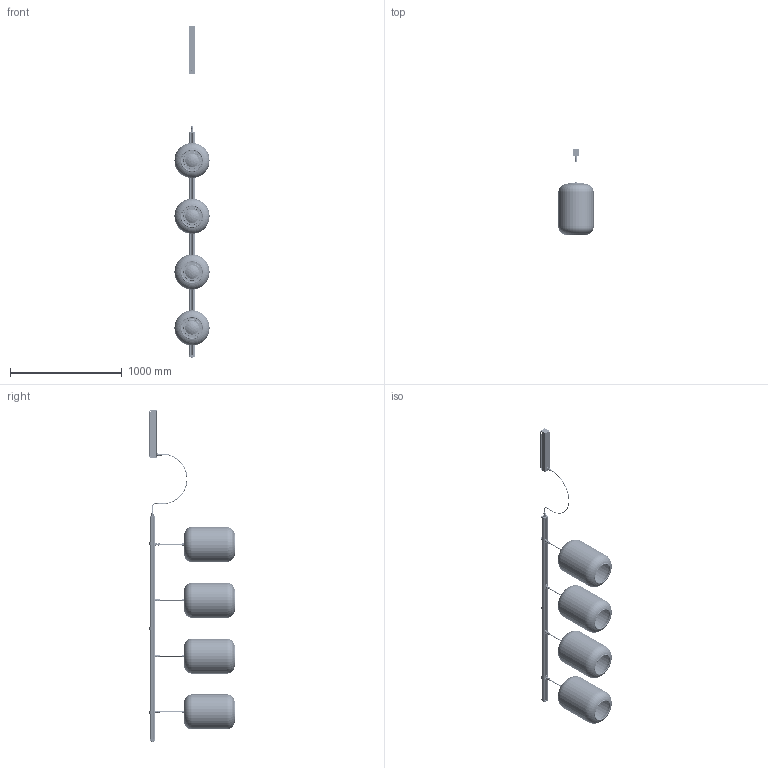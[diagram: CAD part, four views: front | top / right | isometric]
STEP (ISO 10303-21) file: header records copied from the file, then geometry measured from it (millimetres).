
FILE_DESCRIPTION (( 'STEP AP203' ), '1' );
FILE_NAME ('OUTRACK NANS PF-31.2-4L 13007104xxx.STEP', '2024-02-08T13:58:33', ( '' ), ( '' ), 'SwSTEP 2.0', 'SolidWorks 2019', '' );
FILE_SCHEMA (( 'CONFIG_CONTROL_DESIGN' ));
Length unit declared in the file: millimetre
Products named in the file (57): 000-TUERCA M16_150 CONECTOR LLT; 000-130 OUTRACK ENSAMBLAJE CONECTOR INFERIOR 20_09_22; 000-906-024; 000-30903229YYY NANS S-31-2 OUT SISTEMA 24VDC; 000-AC130304_AC130304-CURVADO; 000-130 OUTRACK TAPA ACOMETIDA 20_09_22; 000-130_503; 000-130_521; 000-D913-33A2_M3X3mm; 000-133-050; 000-D7991-38 A2; 000-AC130500_TRIAC; 000-130_501; 000-130_502; 000-D965-410A2; 000-130 OUTRACK TAPA ACOMETIDA 20_09_22_SIN PRENSA; 000-D6798J-3.2A2; 000-133-035; 000-133-037-12; 000-309-044; 000-914-231HP; 000-130_516; 000-905-023; 000-309-045; 000-130_304; 000-D7991-310; 000-914-052; 000-130_517; 000-309-042; 000-D965-38_ISO 7046-1 - M3 x 5 - Z --- 5N; 000-309-001; 000-133-040; 000-309-041; 000-AC130201; 000-309-047; 000-914-231; 000-D7985-34; 000-130_504; 000-D7985-310A2; 000-906.032 - AC130304-CURVADO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
Assembly tree (184 placements, depth 4):
  OUTRACK NANS PF-31.2-4L 13007104xxx
    000-AC130002
      000-130_521
      000-130 OUTRACK TAPA ACOMETIDA 20_09_22
        000-130_516
        000-914-231HP
        000-130_517
        000-D965-38_ISO 7046-1 - M3 x 5 - Z --- 5N  x4
      000-130 OUTRACK TAPA ACOMETIDA 20_09_22_SIN PRENSA
        000-130_516
        000-914-231HP
        000-130_517
        000-D965-38_ISO 7046-1 - M3 x 5 - Z --- 5N  x4
      000-130 OUTRACK ENSAMBLAJE CONECTOR INFERIOR 20_09_22
        000-130_504
        000-130_304
        000-914-231HP
        000-D7991-310  x4
      000-130 OUTRACK ENSAMBLAJE CONECTOR INFERIOR 20_09_22
        000-130_504
        000-130_304
        000-914-231HP
        000-D7991-310  x4
      000-130 OUTRACK ENSAMBLAJE CONECTOR INFERIOR 20_09_22
        000-130_504
        000-130_304
        000-914-231HP
        000-D7991-310  x4
      000-130 OUTRACK ENSAMBLAJE CONECTOR INFERIOR 20_09_22
        000-130_504
        000-130_304
        000-914-231HP
        000-D7991-310  x4
      000-130-115
      000-914-258
    000-AC130304_AC130304-CURVADO
      000-914-231
      000-906.032 - AC130304-CURVADO
    000-30903229YYY NANS S-31-2 OUT SISTEMA 24VDC
      000-309-047
      000-914-052
      000-309-042
      000-309-044
      000-D7991-38 A2  x6
      000-309-041
      000-309-029
      000-906-024
      000-D913-33A2_M3X3mm
      000-309-017
      000-309-045  x3
      000-309-001
      000-914-231
    000-30903229YYY NANS S-31-2 OUT SISTEMA 24VDC
      000-309-047
      000-914-052
      000-309-042
      000-309-044
      000-D7991-38 A2  x6
      000-309-041
      000-309-029
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Bounding box: 315 x 764.29 x 2975.6 mm (x, y, z)
Volume: 11924565.6 mm3; surface area: 5673446.4 mm2
Topology: 171 solids, 190 shells, 11047 faces, 27872 edges, 17712 vertices
Faces by surface type: plane 4177, cylinder 3285, cone 1645, bspline 1399, torus 507, sphere 34
Entity records: 134892 total; most frequent: CARTESIAN_POINT 40832, ORIENTED_EDGE 18200, DIRECTION 16900, EDGE_CURVE 9106, AXIS2_PLACEMENT_3D 6041, VERTEX_POINT 5889, VECTOR 4818, LINE 4818
